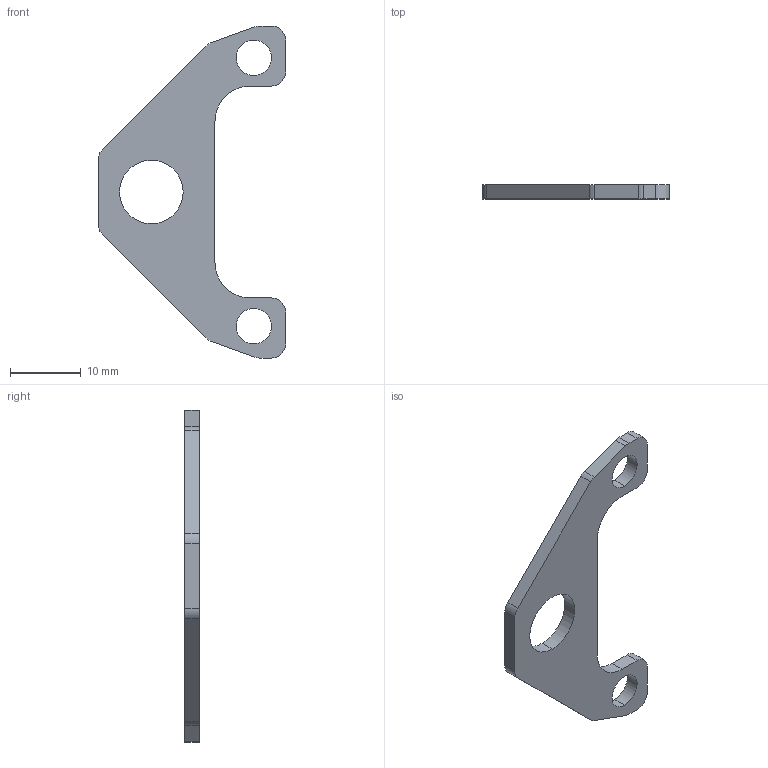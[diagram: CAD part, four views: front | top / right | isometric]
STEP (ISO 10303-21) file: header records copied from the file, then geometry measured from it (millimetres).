
FILE_DESCRIPTION (( 'STEP AP214' ), '1' );
FILE_NAME ('NTS210-B-BRACKET.STEP', '2025-01-08T05:56:23', ( '' ), ( '' ), 'SwSTEP 2.0', 'SolidWorks 2022', '' );
FILE_SCHEMA (( 'AUTOMOTIVE_DESIGN' ));
Length unit declared in the file: millimetre
Products named in the file (1): NTS210-B-BRACKET
Bounding box: 26.5 x 2 x 47 mm (x, y, z)
Volume: 1025.3 mm3; surface area: 1418 mm2
Topology: 1 solids, 1 shells, 32 faces, 90 edges, 60 vertices
Faces by surface type: cylinder 18, plane 14
Entity records: 1096 total; most frequent: DIRECTION 192, CARTESIAN_POINT 183, ORIENTED_EDGE 180, EDGE_CURVE 90, AXIS2_PLACEMENT_3D 69, VERTEX_POINT 60, LINE 54, VECTOR 54
